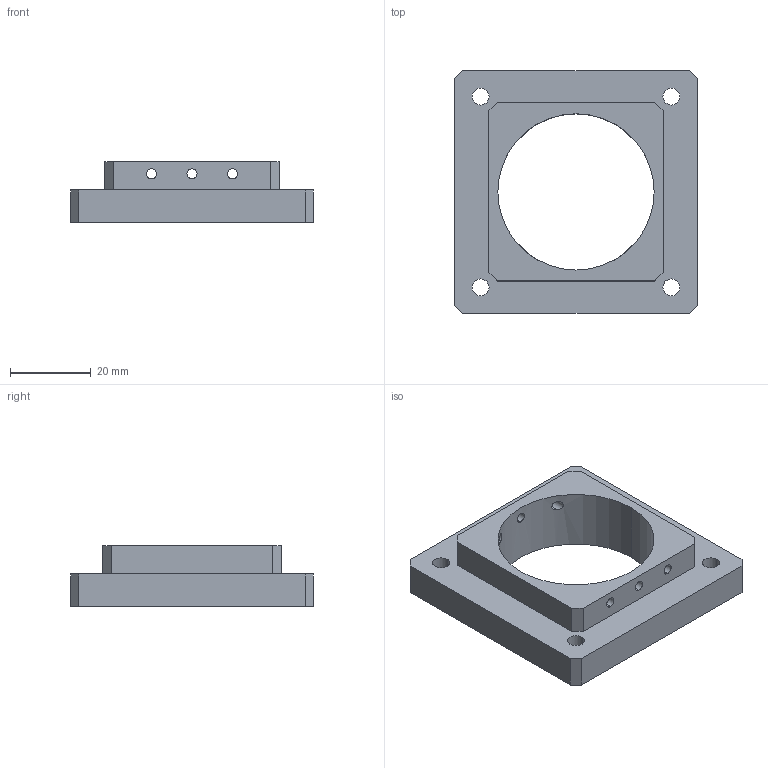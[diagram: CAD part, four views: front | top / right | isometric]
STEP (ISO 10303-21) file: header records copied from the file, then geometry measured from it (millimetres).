
FILE_DESCRIPTION (( 'STEP AP203' ), '1' );
FILE_NAME ('FB-010-20A賑啣B.STEP', '2025-02-10T08:09:03', ( 'Windows 蚚誧' ), ( 'Organization' ), 'SwSTEP 2.0', 'SolidWorks 2020', '' );
FILE_SCHEMA (( 'CONFIG_CONTROL_DESIGN' ));
Length unit declared in the file: millimetre
Products named in the file (1): FB-010-20A賑啣B
Bounding box: 60 x 60 x 15 mm (x, y, z)
Volume: 23792.7 mm3; surface area: 10195.7 mm2
Topology: 1 solids, 1 shells, 41 faces, 114 edges, 76 vertices
Faces by surface type: cylinder 22, plane 19
Entity records: 1665 total; most frequent: CARTESIAN_POINT 480, ORIENTED_EDGE 228, DIRECTION 218, EDGE_CURVE 114, VERTEX_POINT 76, AXIS2_PLACEMENT_3D 74, LINE 70, VECTOR 70
